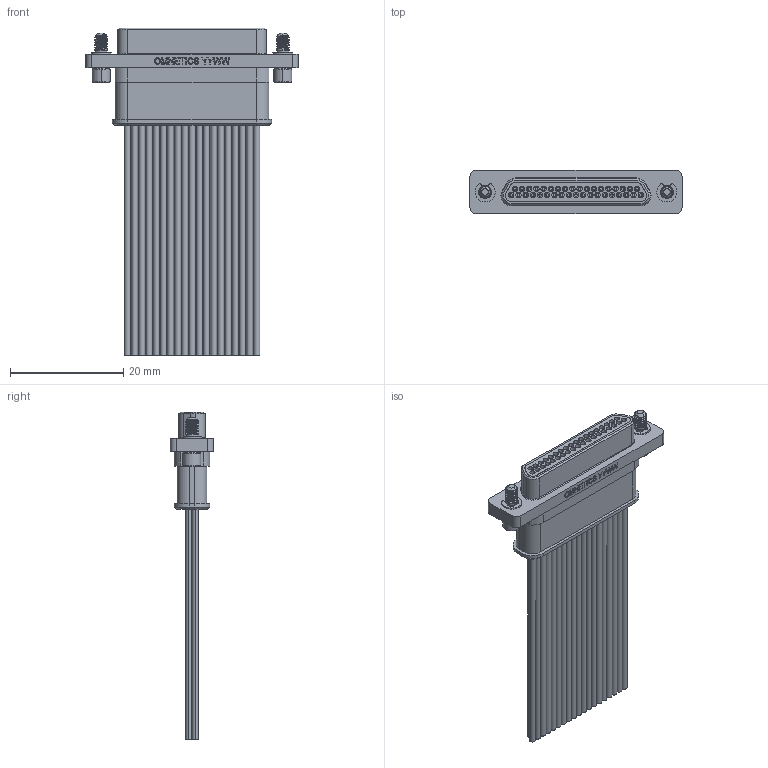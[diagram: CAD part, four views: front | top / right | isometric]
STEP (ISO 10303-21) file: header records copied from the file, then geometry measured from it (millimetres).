
FILE_DESCRIPTION (( 'STEP AP214' ), '1' );
FILE_NAME ('A98181-037 REV A.STEP', '2018-03-09T15:01:21', ( '' ), ( '' ), 'SwSTEP 2.0', 'SolidWorks 2017', '' );
FILE_SCHEMA (( 'AUTOMOTIVE_DESIGN' ));
Length unit declared in the file: inch
Products named in the file (1): A98181-037 REV A
Bounding box: 37.47 x 7.63 x 57.94 mm (x, y, z)
Volume: 3494.2 mm3; surface area: 9950 mm2
Topology: 1 solids, 1 shells, 1000 faces, 2288 edges, 1456 vertices
Faces by surface type: cylinder 473, plane 363, cone 99, bspline 60, torus 5
Entity records: 32426 total; most frequent: CARTESIAN_POINT 9447, DIRECTION 4979, ORIENTED_EDGE 4564, EDGE_CURVE 2282, AXIS2_PLACEMENT_3D 1921, VERTEX_POINT 1456, EDGE_LOOP 1184, VECTOR 1137
